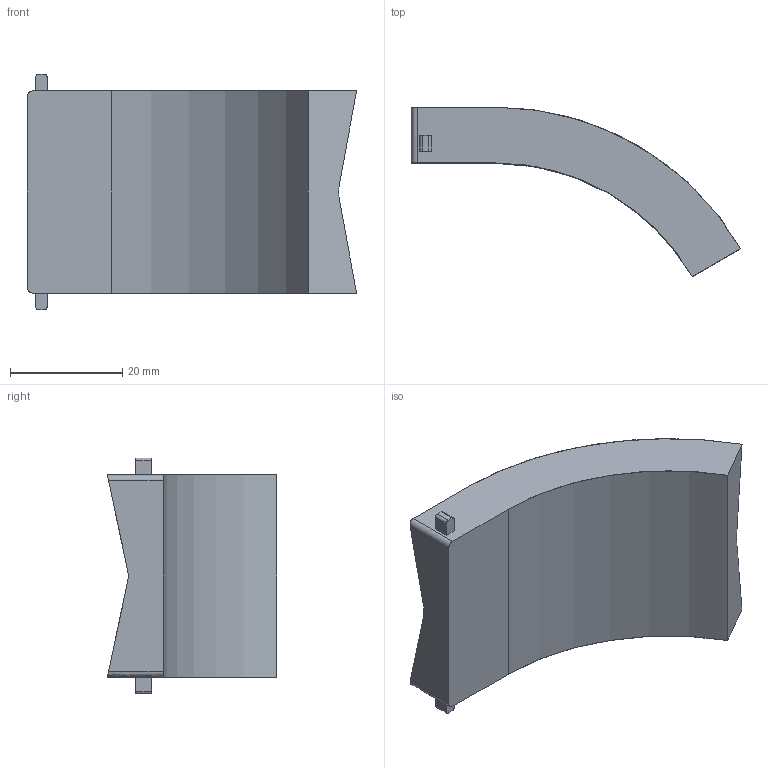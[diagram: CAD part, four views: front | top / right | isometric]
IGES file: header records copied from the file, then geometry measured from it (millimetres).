
Start section: SolidWorks IGES file using analytic representation for surfaces
Global section: file name: E:\Studium\I4.0\fts\Kleine Bauteile\bahn.IGS; native system: SolidWorks 2013; preprocessor: SolidWorks 2013; author: Ludwig Jiawei Luo; date: 180202.213748; units: millimetre
Bounding box: 58.61 x 30.15 x 42 mm (x, y, z)
Surface area: 6346.9 mm2 (no closed solid volume)
Topology: 0 solids, 0 shells, 29 faces, 233 edges, 233 vertices
Faces by surface type: bspline 19, revolution 10
